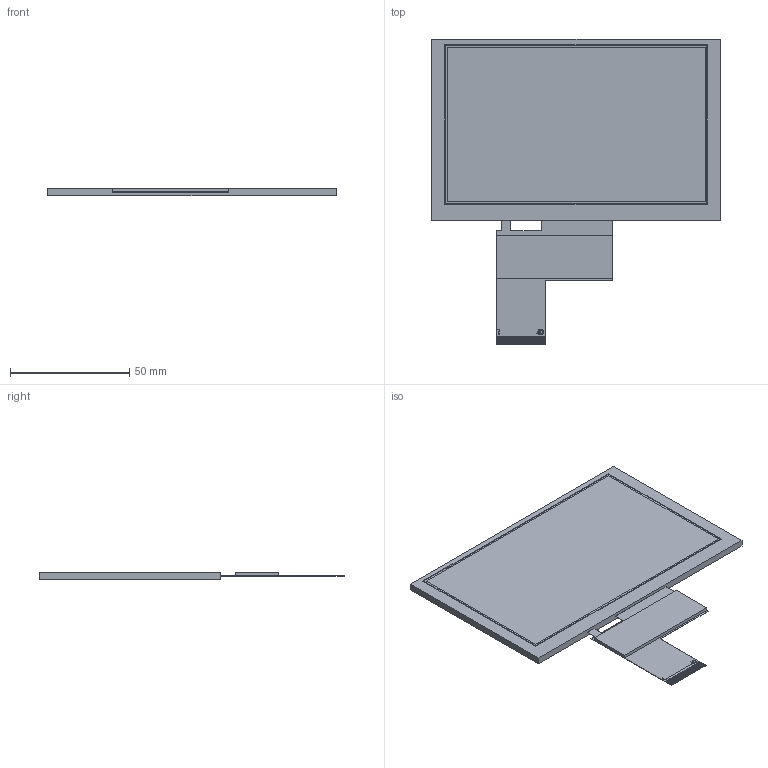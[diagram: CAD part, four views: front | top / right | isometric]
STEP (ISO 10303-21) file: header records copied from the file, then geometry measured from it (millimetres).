
FILE_DESCRIPTION (( 'STEP AP214' ), '1' );
FILE_NAME ('CFAF800480E3-050SN.STEP', '2024-11-12T23:11:16', ( '' ), ( '' ), 'SwSTEP 2.0', 'SolidWorks 2021', '' );
FILE_SCHEMA (( 'AUTOMOTIVE_DESIGN' ));
Length unit declared in the file: millimetre
Products named in the file (1): CFAF800480E3-050SN
Bounding box: 120.7 x 127.8 x 3 mm (x, y, z)
Volume: 28404.5 mm3; surface area: 24953.1 mm2
Topology: 43 solids, 43 shells, 304 faces, 642 edges, 432 vertices
Faces by surface type: plane 295, bspline 9
Entity records: 12053 total; most frequent: CARTESIAN_POINT 2164, ORIENTED_EDGE 1284, DIRECTION 1216, EDGE_CURVE 642, LINE 624, VECTOR 624, VERTEX_POINT 432, UNCERTAINTY_MEASURE_WITH_UNIT 312
